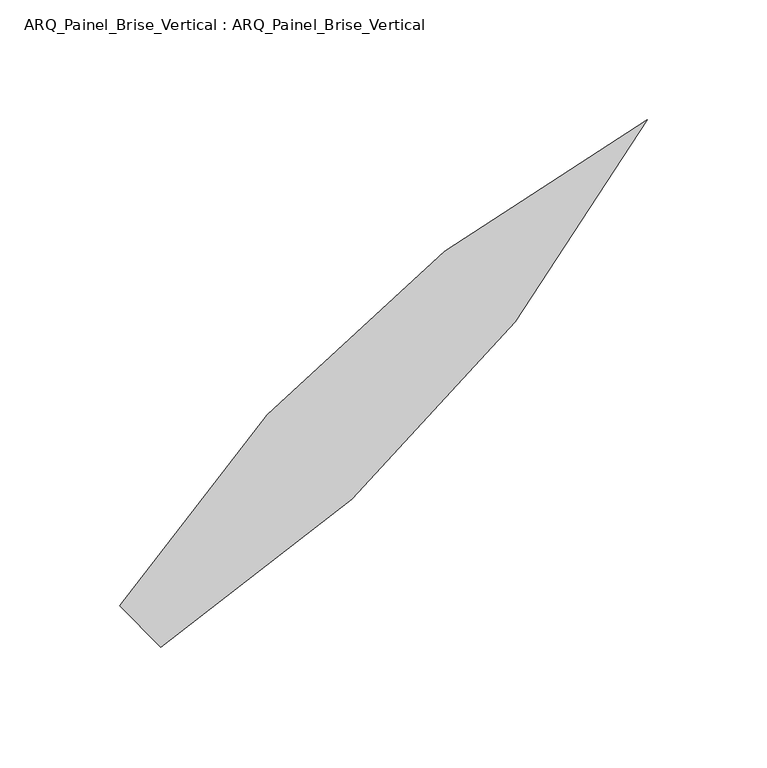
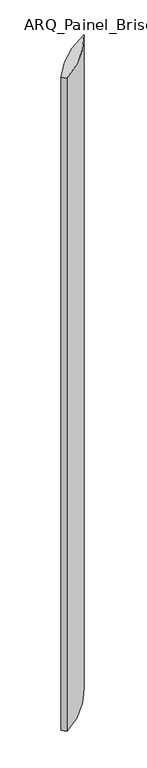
"""IFC4 building model written with IfcOpenShell, lengths in millimetres: plate geometry, ARQ_Painel_Brise_Vertical : ARQ_Painel_Brise_Vertical."""

from ifc_helpers import new_model, si_unit, point, frame_2d, origin, origin_with_axes, place, context, project, spatial, polyline, circle_curve, trimmed, segment, composite_curve, outline, extrude, source, transform, mapped, element, save


def arq_painel_brise_vertical_arq_painel_brise_vertical_4deab555(model_context):
    return source(origin(), model_context, "Body", "SweptSolid", [
        extrude(outline(composite_curve([segment(trimmed(circle_curve(frame_2d((-408.5079287, 411.090773)), 605.0640904), [point((124.2376252, 124.2376252))], [point((-79.2476294, -96.541189))], False, "CARTESIAN"), True, "CONTINUOUS"), segment(polyline([(-79.2476294, -96.541189), (-96.541189, -79.2476294)]), True, "CONTINUOUS"), segment(trimmed(circle_curve(frame_2d((411.090773, -408.5079287)), 605.0640904), [point((-96.541189, -79.2476294))], [point((124.2376252, 124.2376252))], False, "CARTESIAN"), True, "CONTINUOUS")], self_intersect=False)), origin_with_axes(), (0.0, 0.0, 1.0), 3100.0),
    ])


if __name__ == "__main__":
    model = new_model("IFC4")
    model_context = context("Model", 3, world=origin())
    ifc_project = project(units=[si_unit("LENGTHUNIT", "METRE", prefix="MILLI")], contexts=[model_context])
    site = spatial("IfcSite", under=ifc_project)
    building = spatial("IfcBuilding", under=site)
    placement = place(None, origin())
    arq_painel_brise_vertical_arq_painel_brise_vertical_shape = arq_painel_brise_vertical_arq_painel_brise_vertical_4deab555(model_context)
    element("IfcPlate", 1, ObjectType="ARQ_Painel_Brise_Vertical : ARQ_Painel_Brise_Vertical", at=placement, inside=building, context=model_context, shape_type="MappedRepresentation", body=[
        mapped(arq_painel_brise_vertical_arq_painel_brise_vertical_shape, transform((0.0, 0.0, 0.0), x_axis=(1.0, 0.0, 0.0), y_axis=(0.0, 1.0, 0.0), z_axis=(0.0, 0.0, 1.0))),
    ])
    save(model, "model.ifc")
